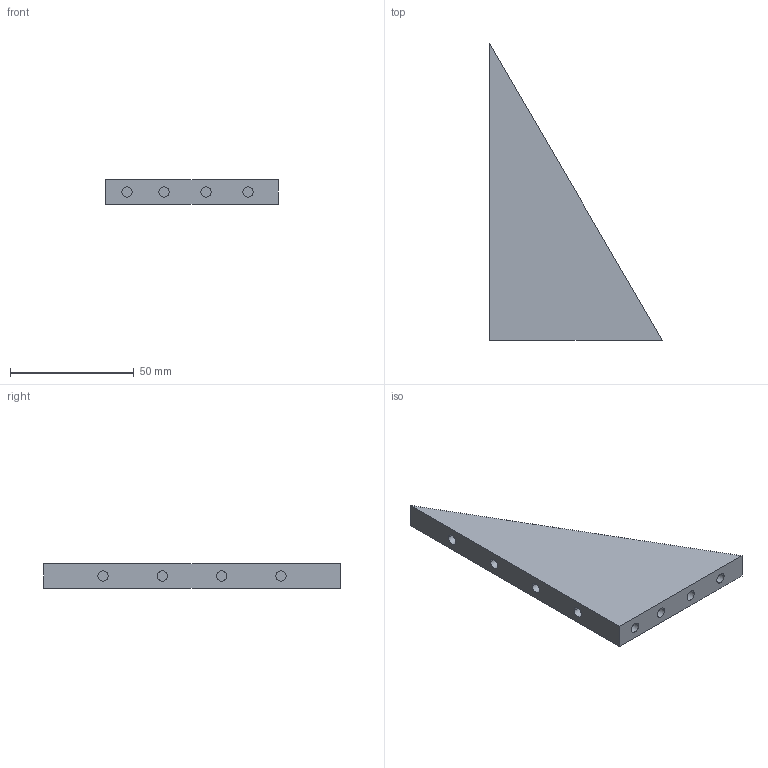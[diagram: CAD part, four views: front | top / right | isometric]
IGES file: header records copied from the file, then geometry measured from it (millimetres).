
Start section:  PTC IGES file: h120-k60l-sp.igs
Global section: file name: h120-k60l-sp.igs; native system: Pro/ENGINEER by Parametric Technology Corporation; preprocessor: 2008230; author: Owner; organization: Unknown; date: 20121211.140041; units: millimetre
Bounding box: 70 x 120 x 10 mm (x, y, z)
Surface area: 12744.8 mm2 (no closed solid volume)
Topology: 0 solids, 0 shells, 29 faces, 114 edges, 114 vertices
Faces by surface type: revolution 16, bspline 13
